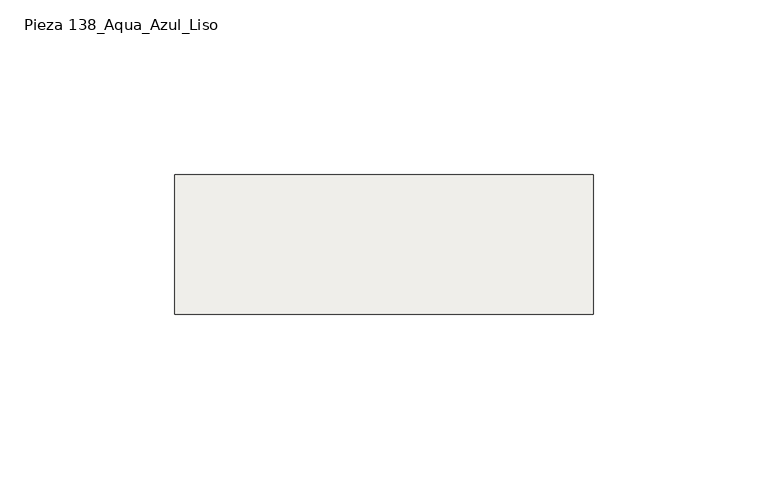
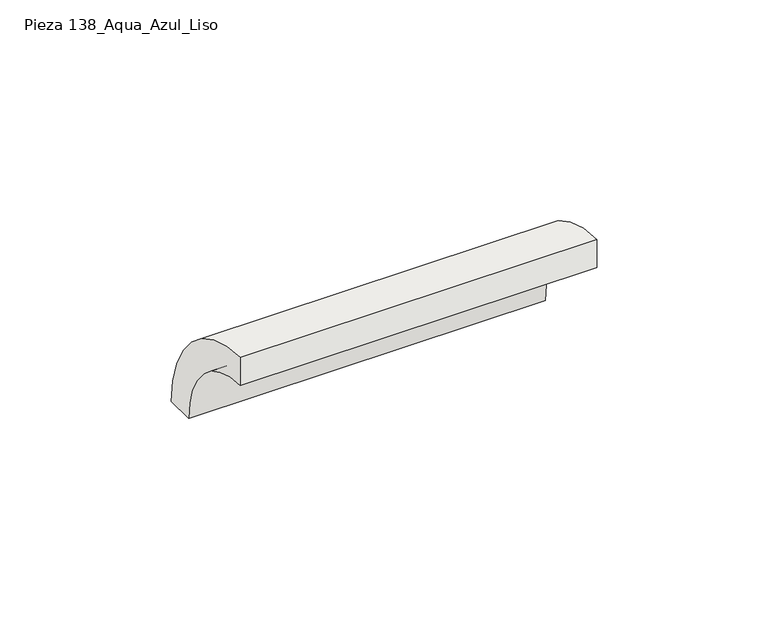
"""IFC4 building model written with IfcOpenShell, lengths in millimetres: slab geometry, ROSA GRES_138 : Pieza 138_Aqua_Azul_Liso."""

from ifc_helpers import new_model, si_unit, point, frame, frame_2d, origin, origin_2d, place, context, project, spatial, polyline, circle_curve, trimmed, segment, composite_curve, outline, extrude, source, transform, mapped, element, save


def pieza_138_aqua_azul_liso_eaa4235e(model_context):
    return source(origin(), model_context, "Body", "SweptSolid", [
        extrude(outline(composite_curve([segment(trimmed(circle_curve(origin_2d(), 40.0), [point((0.0, 40.0))], [point((40.0, 0.0))], False, "CARTESIAN"), True, "CONTINUOUS"), segment(polyline([(40.0, 0.0), (30.0265886, 0.0)]), True, "CONTINUOUS"), segment(trimmed(circle_curve(frame_2d((0.0044453, 0.0044453)), 30.0221435), [point((30.0265886, 0.0))], [point((0.0, 30.0265886))], True, "CARTESIAN"), True, "CONTINUOUS"), segment(polyline([(0.0, 30.0265886), (0.0, 40.0)]), True, "CONTINUOUS")], self_intersect=False)), frame((0.0, 0.0, 0.0), z_axis=(1.0, 0.0, 0.0), x_axis=(0.0, 1.0, 0.0)), (0.0, 0.0, 1.0), 120.0265886),
    ])


if __name__ == "__main__":
    model = new_model("IFC4")
    model_context = context("Model", 3, world=origin())
    ifc_project = project(units=[si_unit("LENGTHUNIT", "METRE", prefix="MILLI")], contexts=[model_context])
    site = spatial("IfcSite", under=ifc_project)
    building = spatial("IfcBuilding", under=site)
    placement = place(None, origin())
    pieza_138_aqua_azul_liso_shape = pieza_138_aqua_azul_liso_eaa4235e(model_context)
    element("IfcSlab", 1, ObjectType="ROSA GRES_138 : Pieza 138_Aqua_Azul_Liso", at=placement, inside=building, context=model_context, shape_type="MappedRepresentation", body=[
        mapped(pieza_138_aqua_azul_liso_shape, transform((0.0, 0.0, 0.0), x_axis=(1.0, 0.0, 0.0), y_axis=(0.0, 1.0, 0.0), z_axis=(0.0, 0.0, 1.0))),
    ])
    save(model, "model.ifc")
